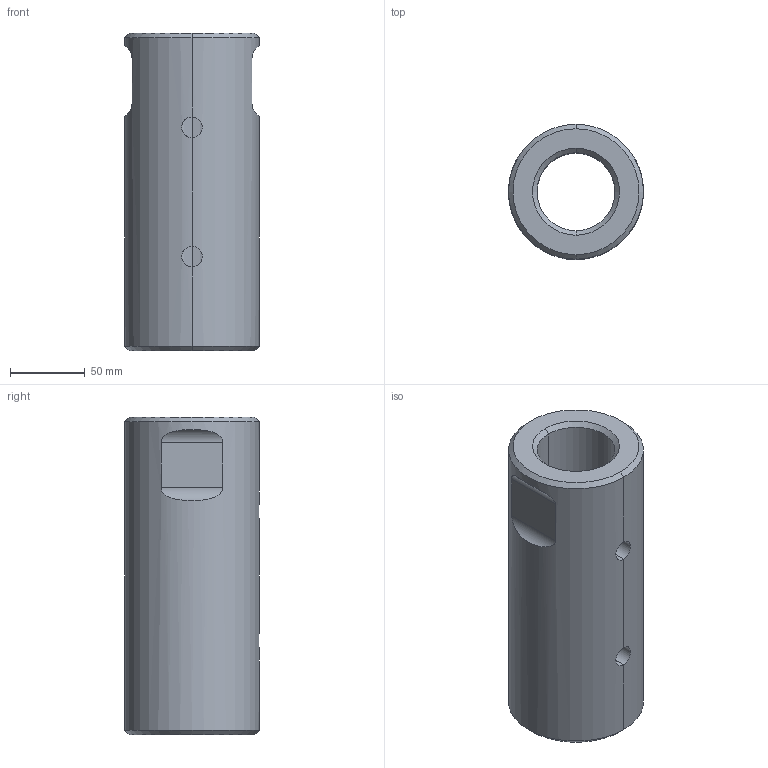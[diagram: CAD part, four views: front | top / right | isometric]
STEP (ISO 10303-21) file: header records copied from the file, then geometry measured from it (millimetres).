
FILE_DESCRIPTION (( 'STEP AP203' ), '1' );
FILE_NAME ('Spannschloss M56.STEP', '2018-02-22T10:02:53', ( 'install' ), ( 'Hewlett-Packard Company' ), 'SwSTEP 2.0', 'SolidWorks 2017', '' );
FILE_SCHEMA (( 'CONFIG_CONTROL_DESIGN' ));
Length unit declared in the file: millimetre
Products named in the file (1): Spannschloss M56
Bounding box: 90 x 90 x 212 mm (x, y, z)
Volume: 826420.1 mm3; surface area: 105247.5 mm2
Topology: 1 solids, 1 shells, 30 faces, 68 edges, 40 vertices
Faces by surface type: cylinder 16, cone 8, plane 6
Entity records: 1481 total; most frequent: CARTESIAN_POINT 727, DIRECTION 142, ORIENTED_EDGE 136, EDGE_CURVE 68, AXIS2_PLACEMENT_3D 55, VERTEX_POINT 40, EDGE_LOOP 36, VECTOR 32
